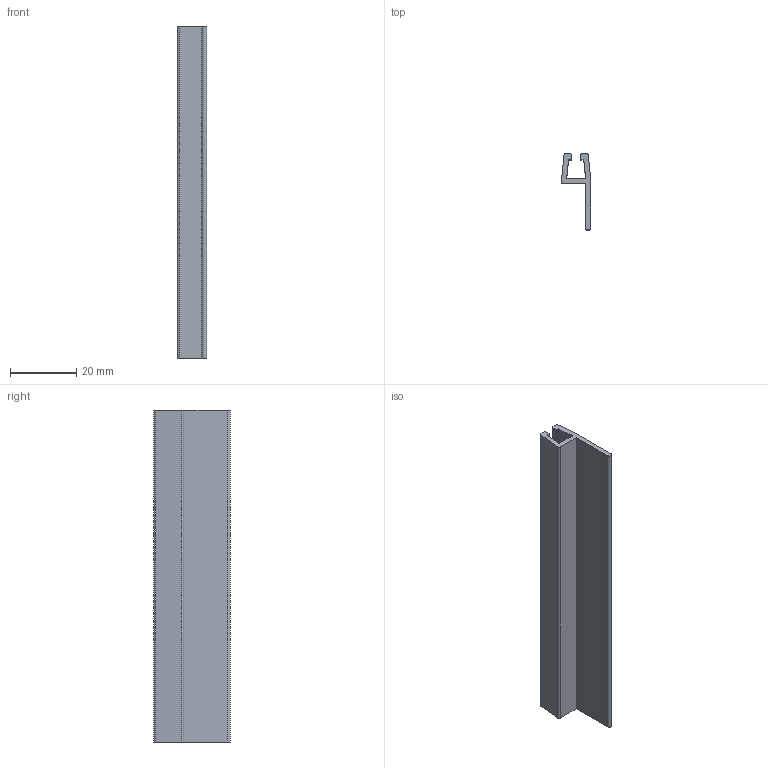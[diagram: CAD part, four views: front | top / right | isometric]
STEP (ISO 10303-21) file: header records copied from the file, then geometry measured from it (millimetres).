
FILE_DESCRIPTION(/* description */ ('BRACKET H-PROFILE FOR 300-3062'),/* implementation_level */ '2;1');
FILE_NAME(/* name */ '\\carryline.intra\privat\users\mathias\Desktop\Tillfälliga filer\300-3066.stp',/* time_stamp */ '2018-11-30T09:54:18+01:00',/* author */ ('MD'),/* organization */ ('CARRYLINE'),/* preprocessor_version */ 'ST-DEVELOPER v17',/* originating_system */ 'Autodesk Inventor 2018',/* authorisation */ '');
FILE_SCHEMA (('AUTOMOTIVE_DESIGN { 1 0 10303 214 3 1 1 }'));
Length unit declared in the file: millimetre
Products named in the file (1): 300-3066
Bounding box: 8.8 x 23 x 100 mm (x, y, z)
Volume: 5927.9 mm3; surface area: 8081.5 mm2
Topology: 1 solids, 1 shells, 28 faces, 78 edges, 52 vertices
Faces by surface type: plane 16, cylinder 12
Entity records: 945 total; most frequent: DIRECTION 160, CARTESIAN_POINT 159, ORIENTED_EDGE 156, EDGE_CURVE 78, LINE 54, VECTOR 54, AXIS2_PLACEMENT_3D 53, VERTEX_POINT 52
